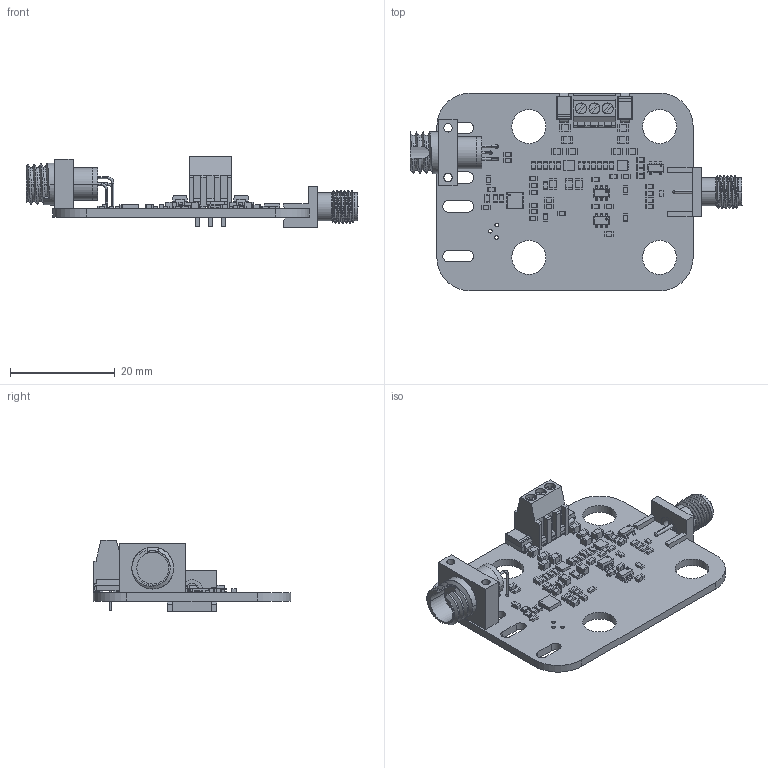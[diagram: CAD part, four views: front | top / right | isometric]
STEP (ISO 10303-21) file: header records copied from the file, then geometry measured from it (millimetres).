
FILE_DESCRIPTION(('Open CASCADE Model'),'2;1');
FILE_NAME('Open CASCADE Shape Model','2020-09-09T15:10:28',('Author'),( 'Open CASCADE'),'Open CASCADE STEP processor 6.8','Open CASCADE 6.8' ,'Unknown');
FILE_SCHEMA(('AUTOMOTIVE_DESIGN { 1 0 10303 214 1 1 1 1 }'));
Length unit declared in the file: millimetre
Products named in the file (119): PD10
Assembly tree (273 placements, depth 4):
  PD10
    PD10
      PD10
    PD10
      PD10
      PD10
      PD10
    PD10
      PD10
      PD10
      PD10
    PD10
      PD10
        PD10
    PD10
      PD10
      PD10
      PD10
    PD10
      PD10
      PD10
      PD10
    PD10
      PD10
      PD10
      PD10
    PD10
      PD10
      PD10
      PD10
    PD10
      PD10
      PD10
      PD10
    PD10
      PD10
      PD10
      PD10
    PD10
      PD10
      PD10
      PD10
    PD10
      PD10
      PD10
      PD10
    PD10
      PD10
      PD10
      PD10
    PD10
      PD10
      PD10
      PD10
    PD10
      PD10
      PD10
      PD10
    PD10
      PD10
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Bounding box: 63.47 x 37.8 x 13.6 mm (x, y, z)
Volume: 4024.4 mm3; surface area: 6701 mm2
Topology: 192 solids, 297 shells, 2049 faces, 4902 edges, 3367 vertices
Faces by surface type: plane 1748, cylinder 271, bspline 12, cone 8, torus 6, sphere 4
Full cylindrical faces by diameter (mm): 0.254 x1, 0.3 x2, 0.7 x6, 1.2 x3, 6.5 x4
Entity records: 38085 total; most frequent: CARTESIAN_POINT 7473, DIRECTION 5021, ORIENTED_EDGE 4503, EDGE_CURVE 2441, LINE 1923, VECTOR 1923, VERTEX_POINT 1663, AXIS2_PLACEMENT_3D 1549
